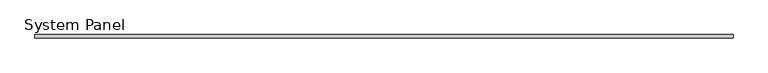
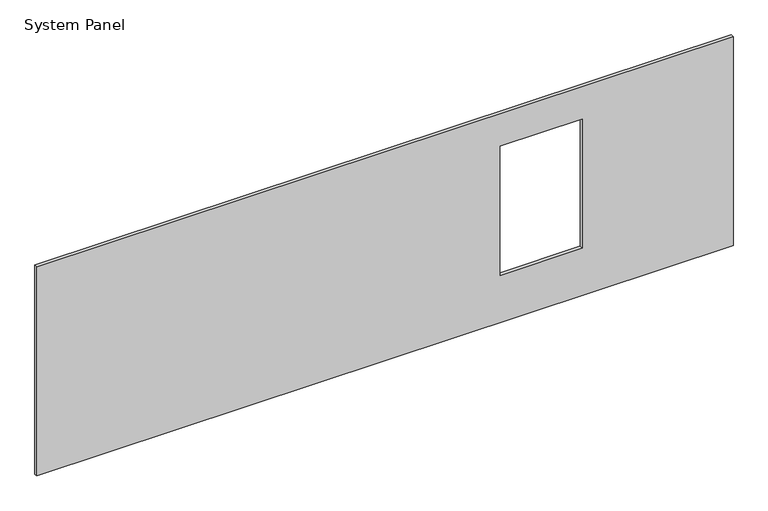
"""IFC4 building model written with IfcOpenShell, lengths in millimetres: plate geometry."""

from ifc_helpers import new_model, si_unit, frame, origin, place, context, project, spatial, polyline, outline, extrude, source, transform, mapped, element, save


def system_panel_3e733371(model_context):
    return source(origin(), model_context, "Body", "SweptSolid", [
        extrude(outline(polyline([(0.0, -3880.4803618), (0.0, 3880.4803618), (2463.8, 3880.4803618), (2463.8, -3880.4803618), (0.0, -3880.4803618)]), holes=[polyline([(558.8, 2199.1386081), (558.8, 1284.7386081), (2082.8, 1284.7386081), (2082.8, 2199.1386081), (558.8, 2199.1386081)])]), frame((0.0, -19.05, 0.0), z_axis=(0.0, 1.0, 0.0), x_axis=(0.0, 0.0, 1.0)), (0.0, 0.0, 1.0), 38.1),
    ])


if __name__ == "__main__":
    model = new_model("IFC4")
    model_context = context("Model", 3, world=origin())
    ifc_project = project(units=[si_unit("LENGTHUNIT", "METRE", prefix="MILLI")], contexts=[model_context])
    site = spatial("IfcSite", under=ifc_project)
    building = spatial("IfcBuilding", under=site)
    placement = place(None, origin())
    system_panel_shape = system_panel_3e733371(model_context)
    element("IfcPlate", 1, ObjectType="System Panel : 1/2\" Plywood & 1\" Rigid Ins.", at=placement, inside=building, context=model_context, shape_type="MappedRepresentation", body=[
        mapped(system_panel_shape, transform((0.0, 0.0, 0.0), x_axis=(1.0, 0.0, 0.0), y_axis=(0.0, 1.0, 0.0), z_axis=(0.0, 0.0, 1.0))),
    ])
    save(model, "model.ifc")
